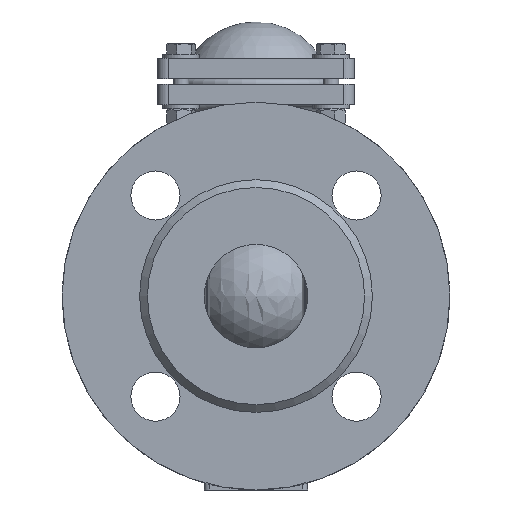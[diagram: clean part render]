
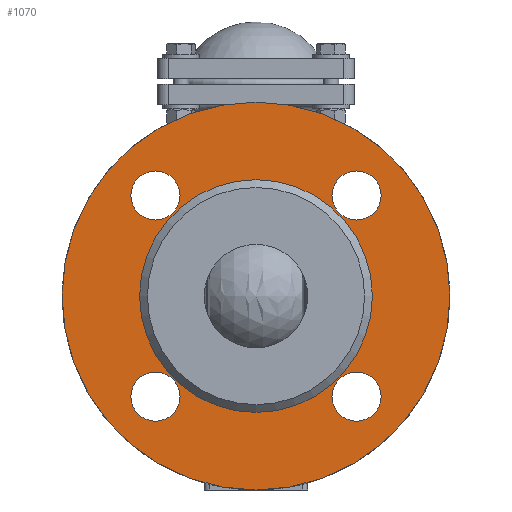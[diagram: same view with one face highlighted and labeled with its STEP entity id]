
A CAD part, left-side view. The second image highlights one B-rep face of the part: STEP entity #1070.
In plain terms, the highlighted planar face has unit normal (-1, 0, 0).
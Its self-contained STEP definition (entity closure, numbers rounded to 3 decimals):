
#1070=ADVANCED_FACE('',(#4387,#4389,#4391,#4393,#4395,#4397),#4399,.F.);
#4387=FACE_BOUND('',#4388,.T.);
#4388=EDGE_LOOP('',(#8905));
#4389=FACE_BOUND('',#4390,.T.);
#4390=EDGE_LOOP('',(#8906));
#4391=FACE_BOUND('',#4392,.T.);
#4392=EDGE_LOOP('',(#8907));
#4393=FACE_BOUND('',#4394,.T.);
#4394=EDGE_LOOP('',(#8908));
#4395=FACE_BOUND('',#4396,.T.);
#4396=EDGE_LOOP('',(#8909));
#4397=FACE_BOUND('',#4398,.T.);
#4398=EDGE_LOOP('',(#8910));
#4399=PLANE('',#4400);
#4400=AXIS2_PLACEMENT_3D('',#4401,#4402,#4403);
#4401=CARTESIAN_POINT('',(-177.,0.,0.));
#4402=DIRECTION('',(1.,0.,0.));
#4403=DIRECTION('',(0.,0.,1.));
#8905=ORIENTED_EDGE('',*,*,#11217,.T.);
#8906=ORIENTED_EDGE('',*,*,#11218,.T.);
#8907=ORIENTED_EDGE('',*,*,#11219,.T.);
#8908=ORIENTED_EDGE('',*,*,#11220,.T.);
#8909=ORIENTED_EDGE('',*,*,#11221,.T.);
#8910=ORIENTED_EDGE('',*,*,#11051,.F.);
#11051=EDGE_CURVE('',#12117,#12117,#12118,.T.);
#11217=EDGE_CURVE('',#12442,#12442,#12443,.T.);
#11218=EDGE_CURVE('',#12444,#12444,#12445,.T.);
#11219=EDGE_CURVE('',#12446,#12446,#12447,.T.);
#11220=EDGE_CURVE('',#12448,#12448,#12449,.T.);
#11221=EDGE_CURVE('',#12450,#12450,#12451,.T.);
#12117=VERTEX_POINT('',#15140);
#12118=CIRCLE('',#15141,45.);
#12442=VERTEX_POINT('',#16167);
#12443=CIRCLE('',#16168,75.);
#12444=VERTEX_POINT('',#16172);
#12445=CIRCLE('',#16173,9.5);
#12446=VERTEX_POINT('',#16177);
#12447=CIRCLE('',#16178,9.5);
#12448=VERTEX_POINT('',#16182);
#12449=CIRCLE('',#16183,9.5);
#12450=VERTEX_POINT('',#16187);
#12451=CIRCLE('',#16188,9.5);
#15140=CARTESIAN_POINT('',(-177.,0.,45.));
#15141=AXIS2_PLACEMENT_3D('',#15142,#15143,#15144);
#15142=CARTESIAN_POINT('',(-177.,0.,0.));
#15143=DIRECTION('',(-1.,0.,0.));
#15144=DIRECTION('',(0.,0.,1.));
#16167=CARTESIAN_POINT('',(-177.,0.,75.));
#16168=AXIS2_PLACEMENT_3D('',#16169,#16170,#16171);
#16169=CARTESIAN_POINT('',(-177.,0.,0.));
#16170=DIRECTION('',(-1.,0.,0.));
#16171=DIRECTION('',(0.,0.,1.));
#16172=CARTESIAN_POINT('',(-177.,48.391,38.891));
#16173=AXIS2_PLACEMENT_3D('',#16174,#16175,#16176);
#16174=CARTESIAN_POINT('',(-177.,38.891,38.891));
#16175=DIRECTION('',(1.,0.,0.));
#16176=DIRECTION('',(0.,1.,0.));
#16177=CARTESIAN_POINT('',(-177.,-38.891,48.391));
#16178=AXIS2_PLACEMENT_3D('',#16179,#16180,#16181);
#16179=CARTESIAN_POINT('',(-177.,-38.891,38.891));
#16180=DIRECTION('',(1.,0.,0.));
#16181=DIRECTION('',(0.,0.,1.));
#16182=CARTESIAN_POINT('',(-177.,-48.391,-38.891));
#16183=AXIS2_PLACEMENT_3D('',#16184,#16185,#16186);
#16184=CARTESIAN_POINT('',(-177.,-38.891,-38.891));
#16185=DIRECTION('',(1.,0.,0.));
#16186=DIRECTION('',(0.,-1.,0.));
#16187=CARTESIAN_POINT('',(-177.,38.891,-48.391));
#16188=AXIS2_PLACEMENT_3D('',#16189,#16190,#16191);
#16189=CARTESIAN_POINT('',(-177.,38.891,-38.891));
#16190=DIRECTION('',(1.,0.,0.));
#16191=DIRECTION('',(0.,0.,-1.));
